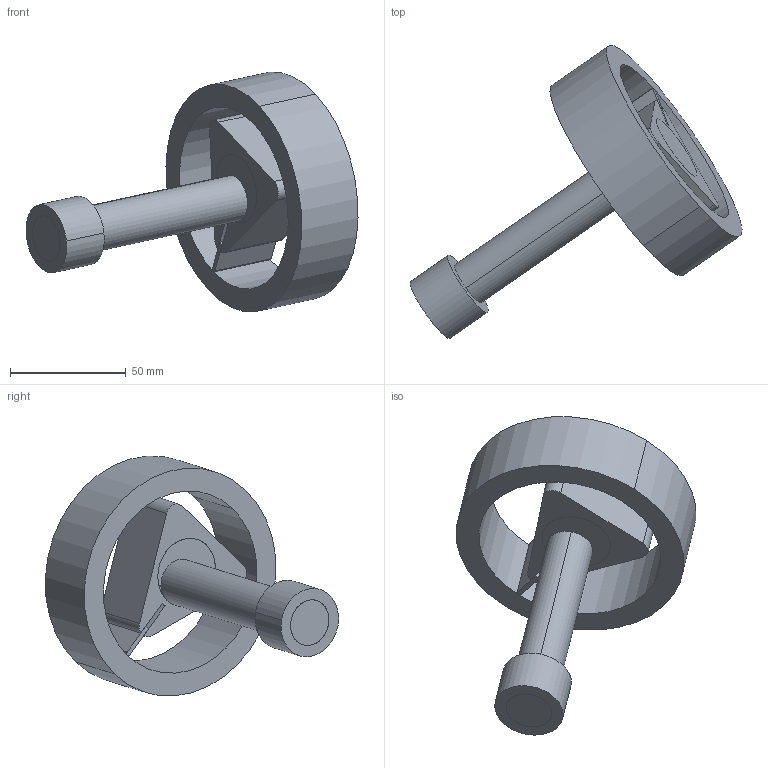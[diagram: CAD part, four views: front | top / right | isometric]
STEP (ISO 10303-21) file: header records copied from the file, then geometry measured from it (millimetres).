
FILE_DESCRIPTION(('CATIA V5 STEP Exchange'),'2;1');
FILE_NAME('H:\Bachelorarbeit_Hahn\Neue Vereinfachung_2\Zusammenbau.stp','2009-05-25T18:16:00+00:00',('none'),('none'),'CATIA Version 5 Release 19 GA (IN-10)','CATIA V5 STEP AP203','none');
FILE_SCHEMA(('CONFIG_CONTROL_DESIGN'));
Length unit declared in the file: millimetre
Products named in the file (1): Produkt1
Assembly tree (5 placements, depth 2):
  Produkt1
    #56
    #264
    #697
    #866
    #1035
Bounding box: 143.39 x 126.58 x 103.51 mm (x, y, z)
Volume: 176425.4 mm3; surface area: 49144.3 mm2
Topology: 5 solids, 5 shells, 41 faces, 91 edges, 60 vertices
Faces by surface type: plane 21, cylinder 20
Entity records: 1219 total; most frequent: CARTESIAN_POINT 192, ORIENTED_EDGE 182, DIRECTION 173, EDGE_CURVE 91, AXIS2_PLACEMENT_3D 85, VERTEX_POINT 60, VECTOR 47, EDGE_LOOP 47
